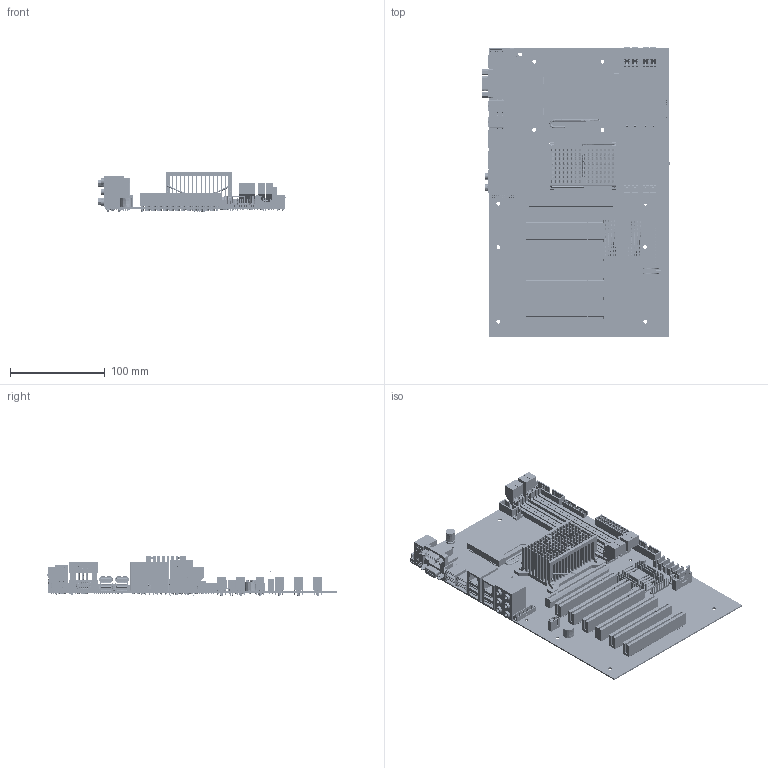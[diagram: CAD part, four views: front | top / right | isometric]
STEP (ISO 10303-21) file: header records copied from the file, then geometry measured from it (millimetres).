
FILE_DESCRIPTION((''),'2;1');
FILE_NAME('KT965_ATXP_ASM','2007-08-03T',('danny.din'),('PTC'),'PRO/ENGINEER BY PARAMETRIC TECHNOLOGY CORPORATION, 2004490','PRO/ENGINEER BY PARAMETRIC TECHNOLOGY CORPORATION, 2004490','');
FILE_SCHEMA(('CONFIG_CONTROL_DESIGN'));
Length unit declared in the file: millimetre
Products named in the file (36): ATXP; KT965_ATXP; CON-DDR2-FOXCONN-AT24011_H3B; CON-PCI-EH06001_GV_V-FOXCONN; CON-PLUG_2X13_FOXCON; CON-PWR24P-FOXCONN-HM25120; BATTERY-HOLDER-LOTUS; CONN-SATA-67491-0010; AUDIO_X6; CON-PCI_E-TYCO-X_1612163_X; HSK-37X37-HW37970B0; HSK-37X37-PUSH-SPRING; HSK-37X37-HW-SPRING; HSK-37X37-HW37970B0_ASM; CON-TYCO-VIILTD; CONN-PWR-LOTES-A7466SB5N; CON-4PIN-WAFER-TOPYANG; CON-10P-FOXCONN-HL20051; CON-FAN-4P-HF2704_; CON-LAN_USB-FXN-UB11123_Y5XF-4F; HSK-GLENWOOD-CCI; HSK-GLENWOOD-SPRING; HSK-HOLDER-GLENDWOOD; HSK-GLENWOOD_ASM; CON-JUMP10-HC11051-FOXCONN; CON-JUMP19; CON-PS2-FOXCONN-MH11061-PD2; CONN-USB-FOXCONN-327-0000-1078; CONN-MOLEX-5P; CON-2X13P-MOLEX-SD; CON-2X15P-MOLEX-SD-87831-011; OS-CON-ESR; LGA-775-SOCKET; CON-24P-FOXCONN-HL20XX1; CONN_SPEAKER_HY-05_HYCOM; KT965_ATXP_ASM
Assembly tree (54 placements, depth 3):
  KT965_ATXP_ASM
    ATXP
    KT965_ATXP
    CON-DDR2-FOXCONN-AT24011_H3B  x4
    CON-PCI-EH06001_GV_V-FOXCONN  x6
    CON-PLUG_2X13_FOXCON
    CON-PWR24P-FOXCONN-HM25120
    BATTERY-HOLDER-LOTUS
    CONN-SATA-67491-0010  x6
    AUDIO_X6
    CON-PCI_E-TYCO-X_1612163_X
    HSK-37X37-HW37970B0_ASM
      HSK-37X37-HW37970B0
      HSK-37X37-PUSH-SPRING  x2
      HSK-37X37-HW-SPRING  x2
    CON-TYCO-VIILTD
    CONN-PWR-LOTES-A7466SB5N
    CON-4PIN-WAFER-TOPYANG
    CON-10P-FOXCONN-HL20051
    CON-FAN-4P-HF2704_  x2
    CON-LAN_USB-FXN-UB11123_Y5XF-4F  x2
    HSK-GLENWOOD_ASM
      HSK-GLENWOOD-CCI
      HSK-GLENWOOD-SPRING
      HSK-HOLDER-GLENDWOOD  x2
    CON-JUMP10-HC11051-FOXCONN
    CON-JUMP19
    CON-PS2-FOXCONN-MH11061-PD2
    CONN-USB-FOXCONN-327-0000-1078  x2
    CONN-MOLEX-5P
    CON-2X13P-MOLEX-SD
    CON-2X15P-MOLEX-SD-87831-011
    OS-CON-ESR
    LGA-775-SOCKET
    CON-24P-FOXCONN-HL20XX1
    CONN_SPEAKER_HY-05_HYCOM
Bounding box: 198.58 x 306.6 x 43.22 mm (x, y, z)
Volume: 325475.3 mm3; surface area: 330241.7 mm2
Topology: 71 solids, 80 shells, 10727 faces, 26076 edges, 17118 vertices
Faces by surface type: bspline 10727
Entity records: 224484 total; most frequent: CARTESIAN_POINT 92051, ORIENTED_EDGE 30558, DIRECTION 20672, EDGE_CURVE 15279, VERTEX_POINT 9998, VECTOR 9496, LINE 9496, EDGE_LOOP 7533
